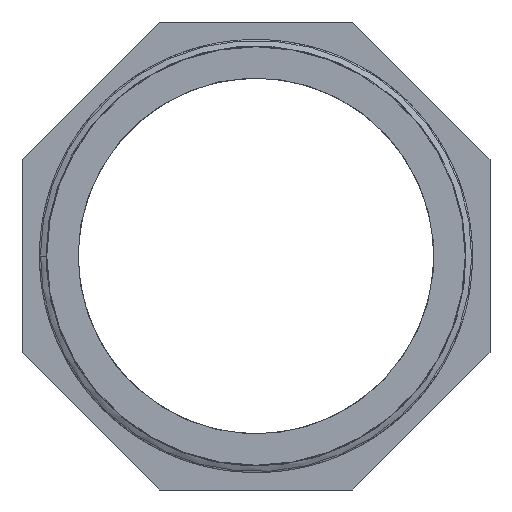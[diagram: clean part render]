
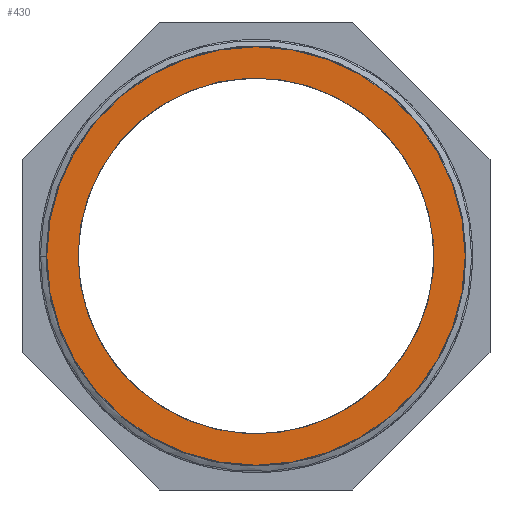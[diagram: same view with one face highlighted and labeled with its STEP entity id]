
A CAD part, front view. The second image highlights one B-rep face of the part: STEP entity #430.
In plain terms, the highlighted planar face has unit normal (0, -1, 0).
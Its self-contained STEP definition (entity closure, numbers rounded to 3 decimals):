
#17=FACE_BOUND('',#93,.T.);
#32=PLANE('',#455);
#37=CIRCLE('',#439,42.463);
#41=CIRCLE('',#454,36.113);
#65=FACE_OUTER_BOUND('',#92,.T.);
#92=EDGE_LOOP('',(#382));
#93=EDGE_LOOP('',(#383));
#186=VERTEX_POINT('',#4217);
#216=VERTEX_POINT('',#11184);
#234=EDGE_CURVE('',#186,#186,#37,.T.);
#276=EDGE_CURVE('',#216,#216,#41,.T.);
#382=ORIENTED_EDGE('',*,*,#234,.T.);
#383=ORIENTED_EDGE('',*,*,#276,.T.);
#430=ADVANCED_FACE('',(#65,#17),#32,.F.);
#439=AXIS2_PLACEMENT_3D('',#6312,#472,#473);
#454=AXIS2_PLACEMENT_3D('',#11185,#529,#530);
#455=AXIS2_PLACEMENT_3D('',#11186,#531,#532);
#472=DIRECTION('center_axis',(0.,-1.,0.));
#473=DIRECTION('ref_axis',(1.,0.,0.));
#529=DIRECTION('center_axis',(0.,1.,0.));
#530=DIRECTION('ref_axis',(1.,0.,0.));
#531=DIRECTION('center_axis',(0.,1.,0.));
#532=DIRECTION('ref_axis',(0.,0.,1.));
#4217=CARTESIAN_POINT('',(-42.463,0.,0.));
#6312=CARTESIAN_POINT('Origin',(0.,0.,0.));
#11184=CARTESIAN_POINT('',(-36.113,0.,0.));
#11185=CARTESIAN_POINT('Origin',(0.,0.,0.));
#11186=CARTESIAN_POINT('Origin',(0.,0.,0.));
